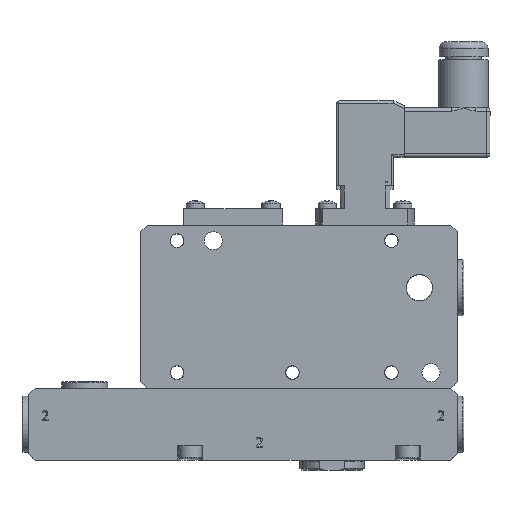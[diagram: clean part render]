
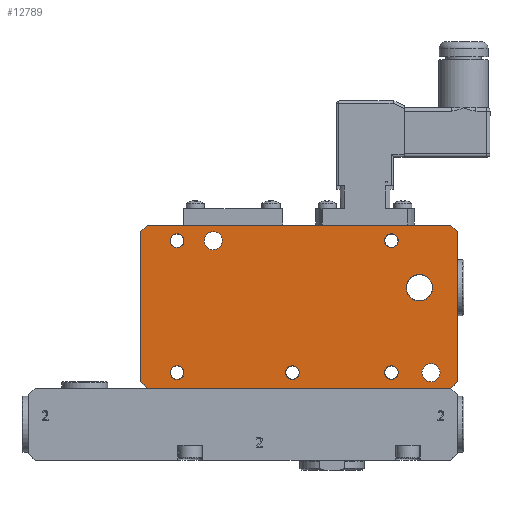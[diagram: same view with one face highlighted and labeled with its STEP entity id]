
A CAD part, top view. The second image highlights one B-rep face of the part: STEP entity #12789.
In plain terms, the highlighted planar face has unit normal (0, 0, 1).
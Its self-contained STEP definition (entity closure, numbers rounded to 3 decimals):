
#514=FACE_BOUND('',#2525,.T.);
#515=FACE_BOUND('',#2526,.T.);
#516=FACE_BOUND('',#2527,.T.);
#517=FACE_BOUND('',#2528,.T.);
#518=FACE_BOUND('',#2529,.T.);
#519=FACE_BOUND('',#2530,.T.);
#520=FACE_BOUND('',#2531,.T.);
#521=FACE_BOUND('',#2532,.T.);
#683=PLANE('',#13916);
#1775=FACE_OUTER_BOUND('',#2524,.T.);
#2524=EDGE_LOOP('',(#9262,#9263,#9264,#9265,#9266,#9267,#9268,#9269));
#2525=EDGE_LOOP('',(#9270));
#2526=EDGE_LOOP('',(#9271));
#2527=EDGE_LOOP('',(#9272));
#2528=EDGE_LOOP('',(#9273));
#2529=EDGE_LOOP('',(#9274));
#2530=EDGE_LOOP('',(#9275));
#2531=EDGE_LOOP('',(#9276));
#2532=EDGE_LOOP('',(#9277));
#3283=CIRCLE('',#13858,4.);
#3304=CIRCLE('',#13896,2.1);
#3305=CIRCLE('',#13898,2.1);
#3306=CIRCLE('',#13900,2.1);
#3307=CIRCLE('',#13902,2.1);
#3308=CIRCLE('',#13904,2.1);
#3309=CIRCLE('',#13906,2.75);
#3310=CIRCLE('',#13908,2.75);
#3690=LINE('',#18366,#4801);
#3790=LINE('',#18781,#4901);
#3793=LINE('',#18786,#4904);
#3795=LINE('',#18790,#4906);
#3797=LINE('',#18794,#4908);
#3799=LINE('',#18804,#4910);
#3800=LINE('',#18806,#4911);
#3801=LINE('',#18807,#4912);
#4801=VECTOR('',#14947,10.);
#4901=VECTOR('',#15247,10.);
#4904=VECTOR('',#15252,10.);
#4906=VECTOR('',#15256,10.);
#4908=VECTOR('',#15260,10.);
#4910=VECTOR('',#15270,10.);
#4911=VECTOR('',#15271,10.);
#4912=VECTOR('',#15272,10.);
#5931=VERTEX_POINT('',#18363);
#5932=VERTEX_POINT('',#18365);
#6016=VERTEX_POINT('',#18621);
#6047=VERTEX_POINT('',#18751);
#6048=VERTEX_POINT('',#18755);
#6049=VERTEX_POINT('',#18759);
#6050=VERTEX_POINT('',#18763);
#6051=VERTEX_POINT('',#18767);
#6052=VERTEX_POINT('',#18771);
#6053=VERTEX_POINT('',#18775);
#6054=VERTEX_POINT('',#18779);
#6055=VERTEX_POINT('',#18784);
#6056=VERTEX_POINT('',#18789);
#6057=VERTEX_POINT('',#18793);
#6061=VERTEX_POINT('',#18803);
#6062=VERTEX_POINT('',#18805);
#7137=EDGE_CURVE('',#5932,#5931,#3690,.T.);
#7239=EDGE_CURVE('',#6016,#6016,#3283,.T.);
#7286=EDGE_CURVE('',#6047,#6047,#3304,.T.);
#7288=EDGE_CURVE('',#6048,#6048,#3305,.T.);
#7290=EDGE_CURVE('',#6049,#6049,#3306,.T.);
#7292=EDGE_CURVE('',#6050,#6050,#3307,.T.);
#7294=EDGE_CURVE('',#6051,#6051,#3308,.T.);
#7296=EDGE_CURVE('',#6052,#6052,#3309,.T.);
#7298=EDGE_CURVE('',#6053,#6053,#3310,.T.);
#7301=EDGE_CURVE('',#6054,#5931,#3790,.T.);
#7304=EDGE_CURVE('',#6054,#6055,#3793,.T.);
#7306=EDGE_CURVE('',#5932,#6056,#3795,.T.);
#7308=EDGE_CURVE('',#6057,#6056,#3797,.T.);
#7313=EDGE_CURVE('',#6061,#6055,#3799,.T.);
#7314=EDGE_CURVE('',#6061,#6062,#3800,.T.);
#7315=EDGE_CURVE('',#6057,#6062,#3801,.T.);
#9262=ORIENTED_EDGE('',*,*,#7301,.F.);
#9263=ORIENTED_EDGE('',*,*,#7304,.T.);
#9264=ORIENTED_EDGE('',*,*,#7313,.F.);
#9265=ORIENTED_EDGE('',*,*,#7314,.T.);
#9266=ORIENTED_EDGE('',*,*,#7315,.F.);
#9267=ORIENTED_EDGE('',*,*,#7308,.T.);
#9268=ORIENTED_EDGE('',*,*,#7306,.F.);
#9269=ORIENTED_EDGE('',*,*,#7137,.T.);
#9270=ORIENTED_EDGE('',*,*,#7286,.T.);
#9271=ORIENTED_EDGE('',*,*,#7288,.T.);
#9272=ORIENTED_EDGE('',*,*,#7290,.T.);
#9273=ORIENTED_EDGE('',*,*,#7292,.T.);
#9274=ORIENTED_EDGE('',*,*,#7294,.T.);
#9275=ORIENTED_EDGE('',*,*,#7296,.T.);
#9276=ORIENTED_EDGE('',*,*,#7298,.T.);
#9277=ORIENTED_EDGE('',*,*,#7239,.T.);
#12789=ADVANCED_FACE('',(#1775,#514,#515,#516,#517,#518,#519,#520,#521),
#683,.T.);
#13858=AXIS2_PLACEMENT_3D('',#18622,#15112,#15113);
#13896=AXIS2_PLACEMENT_3D('',#18752,#15211,#15212);
#13898=AXIS2_PLACEMENT_3D('',#18756,#15216,#15217);
#13900=AXIS2_PLACEMENT_3D('',#18760,#15221,#15222);
#13902=AXIS2_PLACEMENT_3D('',#18764,#15226,#15227);
#13904=AXIS2_PLACEMENT_3D('',#18768,#15231,#15232);
#13906=AXIS2_PLACEMENT_3D('',#18772,#15236,#15237);
#13908=AXIS2_PLACEMENT_3D('',#18776,#15241,#15242);
#13916=AXIS2_PLACEMENT_3D('',#18802,#15268,#15269);
#14947=DIRECTION('',(1.,0.,0.));
#15112=DIRECTION('center_axis',(0.,0.,
-1.));
#15113=DIRECTION('ref_axis',(1.,0.,0.));
#15211=DIRECTION('center_axis',(0.,0.,
-1.));
#15212=DIRECTION('ref_axis',(1.,0.,0.));
#15216=DIRECTION('center_axis',(0.,0.,
-1.));
#15217=DIRECTION('ref_axis',(1.,0.,0.));
#15221=DIRECTION('center_axis',(0.,0.,
-1.));
#15222=DIRECTION('ref_axis',(1.,0.,0.));
#15226=DIRECTION('center_axis',(0.,0.,
-1.));
#15227=DIRECTION('ref_axis',(1.,0.,0.));
#15231=DIRECTION('center_axis',(0.,0.,
-1.));
#15232=DIRECTION('ref_axis',(1.,0.,0.));
#15236=DIRECTION('center_axis',(0.,0.,
-1.));
#15237=DIRECTION('ref_axis',(1.,0.,0.));
#15241=DIRECTION('center_axis',(0.,0.,
-1.));
#15242=DIRECTION('ref_axis',(1.,0.,0.));
#15247=DIRECTION('',(-0.707,-0.707,0.));
#15252=DIRECTION('',(0.,1.,0.));
#15256=DIRECTION('',(-0.707,0.707,0.));
#15260=DIRECTION('',(0.,-1.,0.));
#15268=DIRECTION('center_axis',(0.,0.,
1.));
#15269=DIRECTION('ref_axis',(1.,0.,0.));
#15270=DIRECTION('',(0.707,-0.707,0.));
#15271=DIRECTION('',(-1.,0.,0.));
#15272=DIRECTION('',(0.707,0.707,0.));
#18363=CARTESIAN_POINT('',(76.762,-2.451,9.589));
#18365=CARTESIAN_POINT('',(-15.238,-2.451,9.589));
#18366=CARTESIAN_POINT('',(78.762,-2.451,9.589));
#18621=CARTESIAN_POINT('',(63.262,28.049,9.589));
#18622=CARTESIAN_POINT('Origin',(67.262,28.049,9.589));
#18751=CARTESIAN_POINT('',(-8.338,2.299,9.589));
#18752=CARTESIAN_POINT('Origin',(-6.238,2.299,9.589));
#18755=CARTESIAN_POINT('',(56.662,42.299,9.589));
#18756=CARTESIAN_POINT('Origin',(58.762,42.299,9.589));
#18759=CARTESIAN_POINT('',(56.662,2.299,9.589));
#18760=CARTESIAN_POINT('Origin',(58.762,2.299,9.589));
#18763=CARTESIAN_POINT('',(-8.338,42.299,9.589));
#18764=CARTESIAN_POINT('Origin',(-6.238,42.299,9.589));
#18767=CARTESIAN_POINT('',(26.662,2.299,9.589));
#18768=CARTESIAN_POINT('Origin',(28.762,2.299,9.589));
#18771=CARTESIAN_POINT('',(68.012,2.299,9.589));
#18772=CARTESIAN_POINT('Origin',(70.762,2.299,9.589));
#18775=CARTESIAN_POINT('',(2.012,42.299,9.589));
#18776=CARTESIAN_POINT('Origin',(4.762,42.299,9.589));
#18779=CARTESIAN_POINT('',(78.762,-0.451,9.589));
#18781=CARTESIAN_POINT('',(71.949,-7.264,9.589));
#18784=CARTESIAN_POINT('',(78.762,45.049,9.589));
#18786=CARTESIAN_POINT('',(78.762,47.049,9.589));
#18789=CARTESIAN_POINT('',(-17.238,-0.451,9.589));
#18790=CARTESIAN_POINT('',(-10.426,-7.264,9.589));
#18793=CARTESIAN_POINT('',(-17.238,45.049,9.589));
#18794=CARTESIAN_POINT('',(-17.238,-2.451,9.589));
#18802=CARTESIAN_POINT('Origin',(30.762,22.299,9.589));
#18803=CARTESIAN_POINT('',(76.762,47.049,9.589));
#18804=CARTESIAN_POINT('',(71.949,51.861,9.589));
#18805=CARTESIAN_POINT('',(-15.238,47.049,9.589));
#18806=CARTESIAN_POINT('',(-17.238,47.049,9.589));
#18807=CARTESIAN_POINT('',(-10.426,51.861,9.589));
